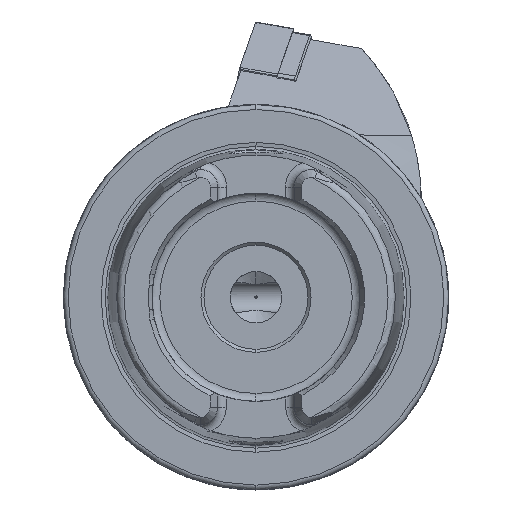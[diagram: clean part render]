
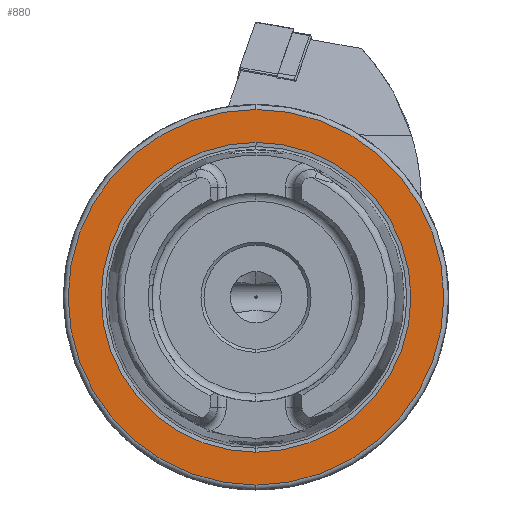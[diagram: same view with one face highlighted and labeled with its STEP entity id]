
A CAD part, left-side view. The second image highlights one B-rep face of the part: STEP entity #880.
In plain terms, the highlighted planar face has unit normal (-1, 0, 0).
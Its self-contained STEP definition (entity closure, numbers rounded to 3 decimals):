
#235 = DIRECTION ( 'NONE',  ( -1., 0., 0. ) ) ;
#301 = DIRECTION ( 'NONE',  ( 0., 0., 1. ) ) ;
#784 = AXIS2_PLACEMENT_3D ( 'NONE', #13275, #235, #301 ) ;
#863 = VERTEX_POINT ( 'NONE', #10531 ) ;
#880 = ADVANCED_FACE ( 'NONE', ( #14375, #13234 ), #4683, .F. ) ;
#1180 = CIRCLE ( 'NONE', #15971, 25.324 ) ;
#1333 = CARTESIAN_POINT ( 'NONE',  ( 0., 0., 0. ) ) ;
#1774 = ORIENTED_EDGE ( 'NONE', *, *, #7532, .F. ) ;
#1817 = EDGE_LOOP ( 'NONE', ( #16198, #6456 ) ) ;
#2060 = EDGE_CURVE ( 'NONE', #18576, #6400, #1180, .T. ) ;
#2386 = ORIENTED_EDGE ( 'NONE', *, *, #2060, .F. ) ;
#2532 = AXIS2_PLACEMENT_3D ( 'NONE', #6220, #7671, #14776 ) ;
#2677 = EDGE_CURVE ( 'NONE', #863, #13589, #3345, .T. ) ;
#3345 = CIRCLE ( 'NONE', #6076, 30.7 ) ;
#4132 = DIRECTION ( 'NONE',  ( 0., 0., 1. ) ) ;
#4683 = PLANE ( 'NONE',  #2532 ) ;
#4813 = CARTESIAN_POINT ( 'NONE',  ( 0., 0., 25.324 ) ) ;
#5956 = EDGE_CURVE ( 'NONE', #13589, #863, #7798, .T. ) ;
#6076 = AXIS2_PLACEMENT_3D ( 'NONE', #6530, #15083, #9296 ) ;
#6122 = CIRCLE ( 'NONE', #13238, 25.324 ) ;
#6220 = CARTESIAN_POINT ( 'NONE',  ( 0., 30.7, 0. ) ) ;
#6400 = VERTEX_POINT ( 'NONE', #4813 ) ;
#6456 = ORIENTED_EDGE ( 'NONE', *, *, #2677, .T. ) ;
#6530 = CARTESIAN_POINT ( 'NONE',  ( 0., 0., 0. ) ) ;
#7380 = CARTESIAN_POINT ( 'NONE',  ( 0., 0., -25.324 ) ) ;
#7532 = EDGE_CURVE ( 'NONE', #6400, #18576, #6122, .T. ) ;
#7671 = DIRECTION ( 'NONE',  ( 1., 0., 0. ) ) ;
#7798 = CIRCLE ( 'NONE', #784, 30.7 ) ;
#9177 = DIRECTION ( 'NONE',  ( -1., 0., 0. ) ) ;
#9296 = DIRECTION ( 'NONE',  ( 0., 0., 1. ) ) ;
#9518 = EDGE_LOOP ( 'NONE', ( #1774, #2386 ) ) ;
#9643 = CARTESIAN_POINT ( 'NONE',  ( 0., 0., 30.7 ) ) ;
#10531 = CARTESIAN_POINT ( 'NONE',  ( 0., 0., -30.7 ) ) ;
#12089 = DIRECTION ( 'NONE',  ( 0., 0., 1. ) ) ;
#13234 = FACE_OUTER_BOUND ( 'NONE', #1817, .T. ) ;
#13238 = AXIS2_PLACEMENT_3D ( 'NONE', #1333, #15904, #4132 ) ;
#13275 = CARTESIAN_POINT ( 'NONE',  ( 0., 0., 0. ) ) ;
#13589 = VERTEX_POINT ( 'NONE', #9643 ) ;
#14375 = FACE_BOUND ( 'NONE', #9518, .T. ) ;
#14776 = DIRECTION ( 'NONE',  ( 0., 0., -1. ) ) ;
#15083 = DIRECTION ( 'NONE',  ( -1., 0., 0. ) ) ;
#15904 = DIRECTION ( 'NONE',  ( -1., 0., 0. ) ) ;
#15971 = AXIS2_PLACEMENT_3D ( 'NONE', #16428, #9177, #12089 ) ;
#16198 = ORIENTED_EDGE ( 'NONE', *, *, #5956, .T. ) ;
#16428 = CARTESIAN_POINT ( 'NONE',  ( 0., 0., 0. ) ) ;
#18576 = VERTEX_POINT ( 'NONE', #7380 ) ;
